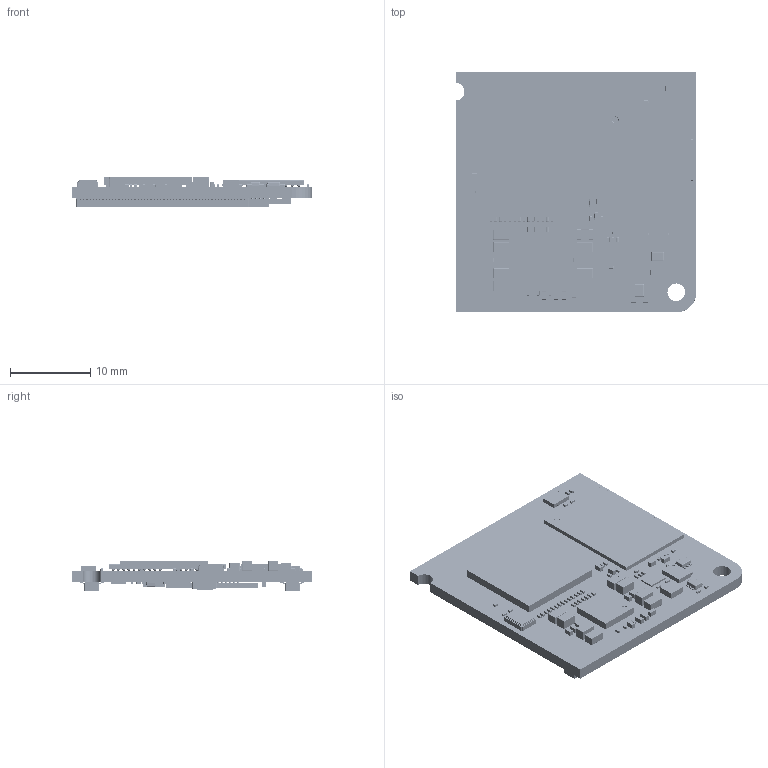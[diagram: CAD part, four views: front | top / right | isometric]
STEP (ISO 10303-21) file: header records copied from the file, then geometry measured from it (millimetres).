
FILE_DESCRIPTION(('Open CASCADE Model'),'2;1');
FILE_NAME('Open CASCADE Shape Model','2026-01-14T14:38:16',('Author'),( 'Open CASCADE'),'Open CASCADE STEP processor 7.5','Open CASCADE 7.5' ,'Unknown');
FILE_SCHEMA(('AUTOMOTIVE_DESIGN { 1 0 10303 214 1 1 1 1 }'));
Length unit declared in the file: millimetre
Products named in the file (407): PCB; Board; Open CASCADE STEP translator 7.5 1.1.1; IC7; User Library-153BallWFBGA; R19; User Library-0201(0603M) Res; R18; R10; R44; C72; User Library-0201(0603M) Cap; X1; DF40C-100DP; DF40C-100DP-0.4V; X2; OSC2; ECS-.327-6-34R-TR; R40; IC9; 8774814240; Extruded; C98; T1; User Library-SOT-563; R36; T4; T3; T2; R35; R34; R33; R29; R25; R24; R23; R20; R12; R9; IC3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
Assembly tree (608 placements, depth 5):
  PCB
    Board
      Open CASCADE STEP translator 7.5 1.1.1
    IC7
      User Library-153BallWFBGA
    R19
      User Library-0201(0603M) Res
    R18
      User Library-0201(0603M) Res
    R10
      User Library-0201(0603M) Res
    R44
      User Library-0201(0603M) Res
    C72
      User Library-0201(0603M) Cap
    X1
      DF40C-100DP
        DF40C-100DP-0.4V
    X2
      DF40C-100DP
        DF40C-100DP-0.4V
    OSC2
      ECS-.327-6-34R-TR
    R40
      User Library-0201(0603M) Res
    IC9
      8774814240
        Extruded
    C98
      User Library-0201(0603M) Cap
    T1
      User Library-SOT-563
    R36
      User Library-0201(0603M) Res
    T4
      User Library-SOT-563
    T3
      User Library-SOT-563
    T2
      User Library-SOT-563
    R35
      User Library-0201(0603M) Res
    R34
      User Library-0201(0603M) Res
    R33
      User Library-0201(0603M) Res
    R29
      User Library-0201(0603M) Res
    R25
      User Library-0201(0603M) Res
    R24
      User Library-0201(0603M) Res
    R23
      User Library-0201(0603M) Res
    R20
      User Library-0201(0603M) Res
    R12
      User Library-0201(0603M) Res
    R9
      User Library-0201(0603M) Res
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Bounding box: 30 x 30 x 3.78 mm (x, y, z)
Volume: 1678.6 mm3; surface area: 4034.4 mm2
Topology: 817 solids, 820 shells, 19378 faces, 49743 edges, 30611 vertices
Faces by surface type: plane 8443, bspline 6420, cylinder 4141, sphere 354, cone 16, torus 4
Full cylindrical faces by diameter (mm): 0.231 x1, 0.388 x1, 0.625 x1, 2.2 x1
Entity records: 129955 total; most frequent: CARTESIAN_POINT 31097, DIRECTION 16696, ORIENTED_EDGE 15645, EDGE_CURVE 7824, AXIS2_PLACEMENT_3D 6078, VERTEX_POINT 5367, LINE 4540, VECTOR 4540
